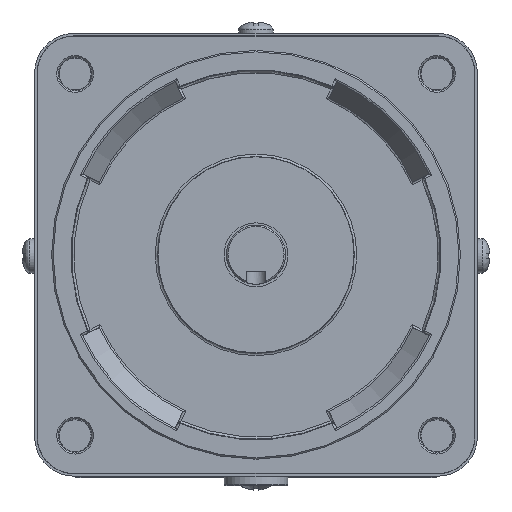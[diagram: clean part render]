
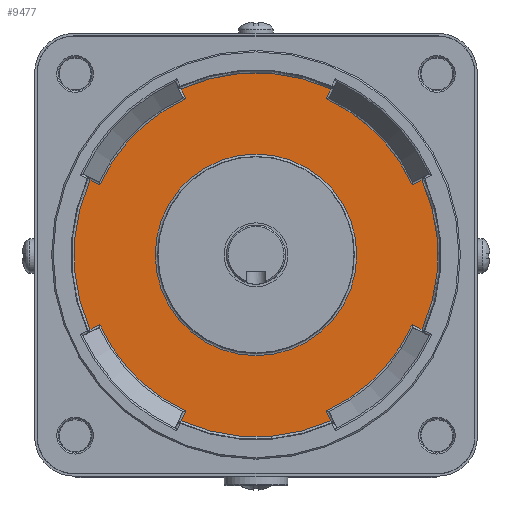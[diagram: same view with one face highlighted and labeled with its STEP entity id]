
A CAD part, top view. The second image highlights one B-rep face of the part: STEP entity #9477.
In plain terms, the highlighted planar face has unit normal (0, 0, 1).
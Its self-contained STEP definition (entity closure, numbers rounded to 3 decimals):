
#103 = EDGE_CURVE ( 'NONE', #5152, #6588, #11347, .T. ) ;
#225 = ORIENTED_EDGE ( 'NONE', *, *, #8274, .T. ) ;
#623 = CARTESIAN_POINT ( 'NONE',  ( 0., 0., -2.5 ) ) ;
#717 = CIRCLE ( 'NONE', #8698, 34.775 ) ;
#774 = VECTOR ( 'NONE', #10191, 1000. ) ;
#947 = VECTOR ( 'NONE', #8319, 1000. ) ;
#1138 = DIRECTION ( 'NONE',  ( 0., 0., 1. ) ) ;
#1334 = CIRCLE ( 'NONE', #12957, 37.013 ) ;
#1517 = DIRECTION ( 'NONE',  ( 0., 0., 1. ) ) ;
#1569 = ORIENTED_EDGE ( 'NONE', *, *, #9705, .T. ) ;
#1646 = AXIS2_PLACEMENT_3D ( 'NONE', #8913, #1138, #7692 ) ;
#1699 = CIRCLE ( 'NONE', #11483, 34.775 ) ;
#1733 = DIRECTION ( 'NONE',  ( -0.423, -0.906, 0. ) ) ;
#1808 = EDGE_CURVE ( 'NONE', #13438, #5152, #13672, .T. ) ;
#1876 = DIRECTION ( 'NONE',  ( 0., 0., 1. ) ) ;
#2006 = EDGE_CURVE ( 'NONE', #3087, #11783, #4551, .T. ) ;
#2020 = ORIENTED_EDGE ( 'NONE', *, *, #2006, .T. ) ;
#2046 = CARTESIAN_POINT ( 'NONE',  ( 15.188, 33.753, -2.5 ) ) ;
#2089 = AXIS2_PLACEMENT_3D ( 'NONE', #12654, #1517, #4938 ) ;
#2108 = CARTESIAN_POINT ( 'NONE',  ( 0., 0., -2.5 ) ) ;
#2376 = VERTEX_POINT ( 'NONE', #3125 ) ;
#2430 = ORIENTED_EDGE ( 'NONE', *, *, #4594, .T. ) ;
#2438 = CARTESIAN_POINT ( 'NONE',  ( 14.242, 31.725, -2.5 ) ) ;
#2525 = CARTESIAN_POINT ( 'NONE',  ( 31.932, 14.338, -2.5 ) ) ;
#2726 = VECTOR ( 'NONE', #7319, 1000. ) ;
#2762 = CARTESIAN_POINT ( 'NONE',  ( -0.211, -0.453, -2.5 ) ) ;
#2804 = DIRECTION ( 'NONE',  ( 1., 0., 0. ) ) ;
#2836 = DIRECTION ( 'NONE',  ( 0., 0., -1. ) ) ;
#2837 = CIRCLE ( 'NONE', #11256, 20.491 ) ;
#3066 = LINE ( 'NONE', #13897, #11669 ) ;
#3087 = VERTEX_POINT ( 'NONE', #10783 ) ;
#3125 = CARTESIAN_POINT ( 'NONE',  ( -31.725, 14.242, -2.5 ) ) ;
#3138 = CARTESIAN_POINT ( 'NONE',  ( 0., 0., -2.5 ) ) ;
#3244 = DIRECTION ( 'NONE',  ( 0., 0., 1. ) ) ;
#3252 = CIRCLE ( 'NONE', #1646, 37.013 ) ;
#3289 = ORIENTED_EDGE ( 'NONE', *, *, #6444, .T. ) ;
#3392 = CARTESIAN_POINT ( 'NONE',  ( -15.188, 33.753, -2.5 ) ) ;
#3431 = CARTESIAN_POINT ( 'NONE',  ( -0.453, 0.211, -2.5 ) ) ;
#3523 = DIRECTION ( 'NONE',  ( 1., 0., 0. ) ) ;
#3689 = CARTESIAN_POINT ( 'NONE',  ( 0., 0., -2.5 ) ) ;
#3724 = EDGE_CURVE ( 'NONE', #2376, #3087, #13741, .T. ) ;
#3954 = CARTESIAN_POINT ( 'NONE',  ( 15.188, -33.753, -2.5 ) ) ;
#4033 = ORIENTED_EDGE ( 'NONE', *, *, #12905, .T. ) ;
#4128 = DIRECTION ( 'NONE',  ( 0.906, 0.423, 0. ) ) ;
#4279 = ORIENTED_EDGE ( 'NONE', *, *, #6718, .T. ) ;
#4393 = CARTESIAN_POINT ( 'NONE',  ( 33.753, 15.188, -2.5 ) ) ;
#4551 = CIRCLE ( 'NONE', #11614, 37.013 ) ;
#4594 = EDGE_CURVE ( 'NONE', #11783, #10891, #3066, .T. ) ;
#4632 = VERTEX_POINT ( 'NONE', #8837 ) ;
#4938 = DIRECTION ( 'NONE',  ( 1., 0., 0. ) ) ;
#5007 = DIRECTION ( 'NONE',  ( 1., 0., 0. ) ) ;
#5010 = AXIS2_PLACEMENT_3D ( 'NONE', #2108, #3244, #12015 ) ;
#5152 = VERTEX_POINT ( 'NONE', #9169 ) ;
#5461 = VECTOR ( 'NONE', #13497, 1000. ) ;
#5590 = CARTESIAN_POINT ( 'NONE',  ( 20.491, 0., -2.5 ) ) ;
#5606 = LINE ( 'NONE', #8883, #12852 ) ;
#5655 = CARTESIAN_POINT ( 'NONE',  ( 0., 0., -2.5 ) ) ;
#5772 = ORIENTED_EDGE ( 'NONE', *, *, #12670, .T. ) ;
#5837 = DIRECTION ( 'NONE',  ( 0., 0., 1. ) ) ;
#6071 = PLANE ( 'NONE',  #2089 ) ;
#6096 = VERTEX_POINT ( 'NONE', #11159 ) ;
#6100 = DIRECTION ( 'NONE',  ( 1., 0., 0. ) ) ;
#6444 = EDGE_CURVE ( 'NONE', #12883, #6096, #11213, .T. ) ;
#6508 = EDGE_CURVE ( 'NONE', #10891, #9236, #1699, .T. ) ;
#6588 = VERTEX_POINT ( 'NONE', #11635 ) ;
#6716 = EDGE_CURVE ( 'NONE', #14018, #11848, #1334, .T. ) ;
#6718 = EDGE_CURVE ( 'NONE', #9236, #4632, #7146, .T. ) ;
#6793 = ORIENTED_EDGE ( 'NONE', *, *, #10179, .T. ) ;
#7118 = EDGE_LOOP ( 'NONE', ( #5772 ) ) ;
#7146 = LINE ( 'NONE', #11500, #9542 ) ;
#7319 = DIRECTION ( 'NONE',  ( 0.423, -0.906, 0. ) ) ;
#7392 = CARTESIAN_POINT ( 'NONE',  ( -14.338, 31.932, -2.5 ) ) ;
#7406 = EDGE_CURVE ( 'NONE', #11848, #13756, #10609, .T. ) ;
#7692 = DIRECTION ( 'NONE',  ( 1., 0., 0. ) ) ;
#7842 = VECTOR ( 'NONE', #11074, 1000. ) ;
#8046 = CARTESIAN_POINT ( 'NONE',  ( 0., 0., -2.5 ) ) ;
#8074 = AXIS2_PLACEMENT_3D ( 'NONE', #623, #8261, #12615 ) ;
#8139 = EDGE_LOOP ( 'NONE', ( #12229, #8248, #3289, #1569, #8666, #11185, #9439, #225, #8232, #2020, #2430, #13794, #4279, #6793, #4033, #13388 ) ) ;
#8232 = ORIENTED_EDGE ( 'NONE', *, *, #3724, .T. ) ;
#8248 = ORIENTED_EDGE ( 'NONE', *, *, #11244, .T. ) ;
#8261 = DIRECTION ( 'NONE',  ( 0., 0., 1. ) ) ;
#8274 = EDGE_CURVE ( 'NONE', #13756, #2376, #8665, .T. ) ;
#8319 = DIRECTION ( 'NONE',  ( -0.906, 0.423, 0. ) ) ;
#8423 = AXIS2_PLACEMENT_3D ( 'NONE', #3138, #9228, #5007 ) ;
#8665 = CIRCLE ( 'NONE', #5010, 34.775 ) ;
#8666 = ORIENTED_EDGE ( 'NONE', *, *, #12138, .T. ) ;
#8698 = AXIS2_PLACEMENT_3D ( 'NONE', #10779, #1876, #14063 ) ;
#8802 = VERTEX_POINT ( 'NONE', #5590 ) ;
#8837 = CARTESIAN_POINT ( 'NONE',  ( -15.188, -33.753, -2.5 ) ) ;
#8848 = LINE ( 'NONE', #3431, #774 ) ;
#8883 = CARTESIAN_POINT ( 'NONE',  ( 14.338, -31.932, -2.5 ) ) ;
#8913 = CARTESIAN_POINT ( 'NONE',  ( 0., 0., -2.5 ) ) ;
#8944 = FACE_OUTER_BOUND ( 'NONE', #8139, .T. ) ;
#9169 = CARTESIAN_POINT ( 'NONE',  ( 31.725, -14.242, -2.5 ) ) ;
#9219 = CARTESIAN_POINT ( 'NONE',  ( 14.242, -31.725, -2.5 ) ) ;
#9228 = DIRECTION ( 'NONE',  ( 0., 0., 1. ) ) ;
#9236 = VERTEX_POINT ( 'NONE', #13597 ) ;
#9439 = ORIENTED_EDGE ( 'NONE', *, *, #7406, .T. ) ;
#9477 = ADVANCED_FACE ( 'NONE', ( #8944, #13294 ), #6071, .T. ) ;
#9542 = VECTOR ( 'NONE', #1733, 1000. ) ;
#9705 = EDGE_CURVE ( 'NONE', #6096, #13617, #717, .T. ) ;
#10117 = DIRECTION ( 'NONE',  ( 1., 0., 0. ) ) ;
#10179 = EDGE_CURVE ( 'NONE', #4632, #12043, #3252, .T. ) ;
#10191 = DIRECTION ( 'NONE',  ( 0.423, 0.906, 0. ) ) ;
#10420 = DIRECTION ( 'NONE',  ( 0., 0., 1. ) ) ;
#10577 = CIRCLE ( 'NONE', #8074, 37.013 ) ;
#10609 = LINE ( 'NONE', #7392, #2726 ) ;
#10779 = CARTESIAN_POINT ( 'NONE',  ( 0., 0., -2.5 ) ) ;
#10783 = CARTESIAN_POINT ( 'NONE',  ( -33.753, 15.188, -2.5 ) ) ;
#10891 = VERTEX_POINT ( 'NONE', #12358 ) ;
#11074 = DIRECTION ( 'NONE',  ( -0.906, -0.423, 0. ) ) ;
#11152 = DIRECTION ( 'NONE',  ( -0.423, 0.906, 0. ) ) ;
#11159 = CARTESIAN_POINT ( 'NONE',  ( 31.725, 14.242, -2.5 ) ) ;
#11185 = ORIENTED_EDGE ( 'NONE', *, *, #6716, .T. ) ;
#11213 = LINE ( 'NONE', #2525, #7842 ) ;
#11244 = EDGE_CURVE ( 'NONE', #6588, #12883, #10577, .T. ) ;
#11256 = AXIS2_PLACEMENT_3D ( 'NONE', #3689, #2836, #6100 ) ;
#11347 = LINE ( 'NONE', #12499, #5461 ) ;
#11389 = CARTESIAN_POINT ( 'NONE',  ( -14.242, 31.725, -2.5 ) ) ;
#11483 = AXIS2_PLACEMENT_3D ( 'NONE', #5655, #13426, #3523 ) ;
#11500 = CARTESIAN_POINT ( 'NONE',  ( 0.453, -0.211, -2.5 ) ) ;
#11614 = AXIS2_PLACEMENT_3D ( 'NONE', #8046, #5837, #10117 ) ;
#11635 = CARTESIAN_POINT ( 'NONE',  ( 33.753, -15.188, -2.5 ) ) ;
#11669 = VECTOR ( 'NONE', #4128, 1000. ) ;
#11783 = VERTEX_POINT ( 'NONE', #13101 ) ;
#11848 = VERTEX_POINT ( 'NONE', #3392 ) ;
#12015 = DIRECTION ( 'NONE',  ( 1., 0., 0. ) ) ;
#12043 = VERTEX_POINT ( 'NONE', #3954 ) ;
#12138 = EDGE_CURVE ( 'NONE', #13617, #14018, #8848, .T. ) ;
#12229 = ORIENTED_EDGE ( 'NONE', *, *, #103, .T. ) ;
#12358 = CARTESIAN_POINT ( 'NONE',  ( -31.725, -14.242, -2.5 ) ) ;
#12499 = CARTESIAN_POINT ( 'NONE',  ( 0.211, 0.453, -2.5 ) ) ;
#12580 = CARTESIAN_POINT ( 'NONE',  ( 0., 0., -2.5 ) ) ;
#12615 = DIRECTION ( 'NONE',  ( 1., 0., 0. ) ) ;
#12654 = CARTESIAN_POINT ( 'NONE',  ( 0., 0., -2.5 ) ) ;
#12670 = EDGE_CURVE ( 'NONE', #8802, #8802, #2837, .T. ) ;
#12852 = VECTOR ( 'NONE', #11152, 1000. ) ;
#12883 = VERTEX_POINT ( 'NONE', #4393 ) ;
#12905 = EDGE_CURVE ( 'NONE', #12043, #13438, #5606, .T. ) ;
#12957 = AXIS2_PLACEMENT_3D ( 'NONE', #12580, #10420, #2804 ) ;
#13101 = CARTESIAN_POINT ( 'NONE',  ( -33.753, -15.188, -2.5 ) ) ;
#13294 = FACE_BOUND ( 'NONE', #7118, .T. ) ;
#13388 = ORIENTED_EDGE ( 'NONE', *, *, #1808, .T. ) ;
#13426 = DIRECTION ( 'NONE',  ( 0., 0., 1. ) ) ;
#13438 = VERTEX_POINT ( 'NONE', #9219 ) ;
#13497 = DIRECTION ( 'NONE',  ( 0.906, -0.423, 0. ) ) ;
#13597 = CARTESIAN_POINT ( 'NONE',  ( -14.242, -31.725, -2.5 ) ) ;
#13617 = VERTEX_POINT ( 'NONE', #2438 ) ;
#13672 = CIRCLE ( 'NONE', #8423, 34.775 ) ;
#13741 = LINE ( 'NONE', #2762, #947 ) ;
#13756 = VERTEX_POINT ( 'NONE', #11389 ) ;
#13794 = ORIENTED_EDGE ( 'NONE', *, *, #6508, .T. ) ;
#13897 = CARTESIAN_POINT ( 'NONE',  ( -31.932, -14.338, -2.5 ) ) ;
#14018 = VERTEX_POINT ( 'NONE', #2046 ) ;
#14063 = DIRECTION ( 'NONE',  ( 1., 0., 0. ) ) ;
